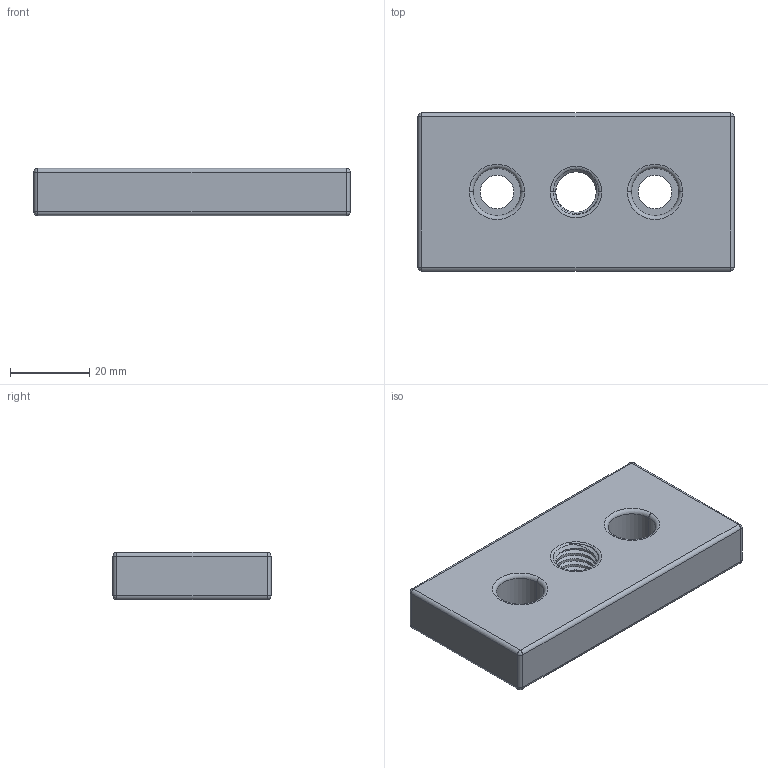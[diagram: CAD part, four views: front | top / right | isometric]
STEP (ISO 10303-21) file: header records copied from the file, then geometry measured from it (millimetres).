
FILE_DESCRIPTION (( 'STEP AP203' ), '1' );
FILE_NAME ('104-CE-SEC4080-8.STEP', '2015-07-09T08:39:02', ( '' ), ( '' ), 'SwSTEP 2.0', 'SolidWorks 2013', '' );
FILE_SCHEMA (( 'CONFIG_CONTROL_DESIGN' ));
Length unit declared in the file: millimetre
Products named in the file (1): 104-CE-SEC4080-8
Bounding box: 80 x 40 x 12 mm (x, y, z)
Volume: 34793.6 mm3; surface area: 10078.7 mm2
Topology: 1 solids, 1 shells, 62 faces, 151 edges, 85 vertices
Faces by surface type: cylinder 34, plane 8, sphere 8, torus 6, cone 4, bspline 2
Entity records: 3014 total; most frequent: CARTESIAN_POINT 1585, DIRECTION 288, ORIENTED_EDGE 286, EDGE_CURVE 143, AXIS2_PLACEMENT_3D 120, VERTEX_POINT 85, EDGE_LOOP 70, FACE_OUTER_BOUND 62
